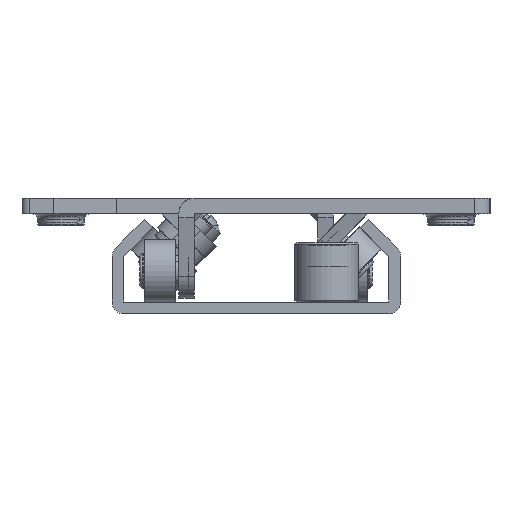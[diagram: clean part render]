
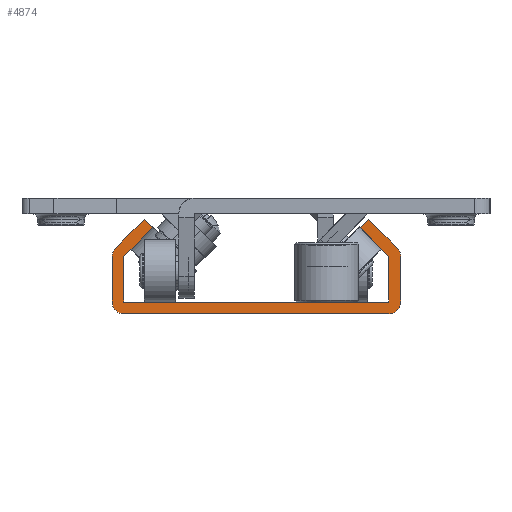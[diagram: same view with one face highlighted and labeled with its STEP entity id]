
A CAD part, left-side view. The second image highlights one B-rep face of the part: STEP entity #4874.
In plain terms, the highlighted planar face has unit normal (-1, 0, 0).
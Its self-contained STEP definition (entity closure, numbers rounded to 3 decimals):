
#4735=CARTESIAN_POINT('',(6.032,-61.972,-18.688));
#4736=VERTEX_POINT('',#4735);
#4737=CARTESIAN_POINT('',(6.032,-60.912,-17.627));
#4738=VERTEX_POINT('',#4737);
#4739=CARTESIAN_POINT('',(6.032,-60.823,-17.539));
#4740=DIRECTION('',(0.,0.707,0.707));
#4741=VECTOR('',#4740,1.);
#4742=LINE('',#4739,#4741);
#4743=EDGE_CURVE('',#4736,#4738,#4742,.T.);
#4744=ORIENTED_EDGE('',*,*,#4743,.T.);
#4745=CARTESIAN_POINT('',(6.032,-57.23,-21.309));
#4746=VERTEX_POINT('',#4745);
#4747=CARTESIAN_POINT('',(6.032,-61.124,-17.415));
#4748=DIRECTION('',(0.,-0.707,0.707));
#4749=VECTOR('',#4748,1.);
#4750=LINE('',#4747,#4749);
#4751=EDGE_CURVE('',#4746,#4738,#4750,.T.);
#4752=ORIENTED_EDGE('',*,*,#4751,.F.);
#4753=CARTESIAN_POINT('',(6.032,-56.79,-22.37));
#4754=VERTEX_POINT('',#4753);
#4755=CARTESIAN_POINT('',(6.032,-58.29,-22.37));
#4756=DIRECTION('',(1.,0.,0.));
#4757=DIRECTION('',(0.,0.,1.));
#4758=AXIS2_PLACEMENT_3D('',#4755,#4756,#4757);
#4759=CIRCLE('',#4758,1.5);
#4760=EDGE_CURVE('',#4754,#4746,#4759,.T.);
#4761=ORIENTED_EDGE('',*,*,#4760,.F.);
#4762=CARTESIAN_POINT('',(6.032,-56.79,-28.214));
#4763=VERTEX_POINT('',#4762);
#4764=CARTESIAN_POINT('',(6.032,-56.79,-28.214));
#4765=DIRECTION('',(0.,0.,1.));
#4766=VECTOR('',#4765,1.);
#4767=LINE('',#4764,#4766);
#4768=EDGE_CURVE('',#4763,#4754,#4767,.T.);
#4769=ORIENTED_EDGE('',*,*,#4768,.F.);
#4770=CARTESIAN_POINT('',(6.032,-58.29,-29.714));
#4771=VERTEX_POINT('',#4770);
#4772=CARTESIAN_POINT('',(6.032,-58.29,-28.214));
#4773=DIRECTION('',(1.,0.,0.));
#4774=DIRECTION('',(0.,1.,0.));
#4775=AXIS2_PLACEMENT_3D('',#4772,#4773,#4774);
#4776=CIRCLE('',#4775,1.5);
#4777=EDGE_CURVE('',#4771,#4763,#4776,.T.);
#4778=ORIENTED_EDGE('',*,*,#4777,.F.);
#4779=CARTESIAN_POINT('',(6.032,-92.29,-29.714));
#4780=VERTEX_POINT('',#4779);
#4781=CARTESIAN_POINT('',(6.032,-92.29,-29.714));
#4782=DIRECTION('',(0.,1.,0.));
#4783=VECTOR('',#4782,1.);
#4784=LINE('',#4781,#4783);
#4785=EDGE_CURVE('',#4780,#4771,#4784,.T.);
#4786=ORIENTED_EDGE('',*,*,#4785,.F.);
#4787=CARTESIAN_POINT('',(6.032,-93.79,-28.214));
#4788=VERTEX_POINT('',#4787);
#4789=CARTESIAN_POINT('',(6.032,-92.29,-28.214));
#4790=DIRECTION('',(1.,0.,0.));
#4791=DIRECTION('',(0.,1.,0.));
#4792=AXIS2_PLACEMENT_3D('',#4789,#4790,#4791);
#4793=CIRCLE('',#4792,1.5);
#4794=EDGE_CURVE('',#4788,#4780,#4793,.T.);
#4795=ORIENTED_EDGE('',*,*,#4794,.F.);
#4796=CARTESIAN_POINT('',(6.032,-93.79,-22.37));
#4797=VERTEX_POINT('',#4796);
#4798=CARTESIAN_POINT('',(6.032,-93.79,-28.214));
#4799=DIRECTION('',(0.,0.,-1.));
#4800=VECTOR('',#4799,1.);
#4801=LINE('',#4798,#4800);
#4802=EDGE_CURVE('',#4797,#4788,#4801,.T.);
#4803=ORIENTED_EDGE('',*,*,#4802,.F.);
#4804=CARTESIAN_POINT('',(6.032,-93.351,-21.309));
#4805=VERTEX_POINT('',#4804);
#4806=CARTESIAN_POINT('',(6.032,-92.29,-22.37));
#4807=DIRECTION('',(1.,0.,0.));
#4808=DIRECTION('',(0.,0.,1.));
#4809=AXIS2_PLACEMENT_3D('',#4806,#4807,#4808);
#4810=CIRCLE('',#4809,1.5);
#4811=EDGE_CURVE('',#4805,#4797,#4810,.T.);
#4812=ORIENTED_EDGE('',*,*,#4811,.F.);
#4813=CARTESIAN_POINT('',(6.032,-89.669,-17.627));
#4814=VERTEX_POINT('',#4813);
#4815=CARTESIAN_POINT('',(6.032,-89.457,-17.415));
#4816=DIRECTION('',(0.,-0.707,-0.707));
#4817=VECTOR('',#4816,1.);
#4818=LINE('',#4815,#4817);
#4819=EDGE_CURVE('',#4814,#4805,#4818,.T.);
#4820=ORIENTED_EDGE('',*,*,#4819,.F.);
#4821=CARTESIAN_POINT('',(6.032,-88.608,-18.688));
#4822=VERTEX_POINT('',#4821);
#4823=CARTESIAN_POINT('',(6.032,-82.939,-24.357));
#4824=DIRECTION('',(0.,0.707,-0.707));
#4825=VECTOR('',#4824,1.);
#4826=LINE('',#4823,#4825);
#4827=EDGE_CURVE('',#4814,#4822,#4826,.T.);
#4828=ORIENTED_EDGE('',*,*,#4827,.T.);
#4829=CARTESIAN_POINT('',(6.032,-92.29,-22.37));
#4830=VERTEX_POINT('',#4829);
#4831=CARTESIAN_POINT('',(6.032,-88.396,-18.475));
#4832=DIRECTION('',(0.,0.707,0.707));
#4833=VECTOR('',#4832,1.);
#4834=LINE('',#4831,#4833);
#4835=EDGE_CURVE('',#4830,#4822,#4834,.T.);
#4836=ORIENTED_EDGE('',*,*,#4835,.F.);
#4837=CARTESIAN_POINT('',(6.032,-92.29,-28.214));
#4838=VERTEX_POINT('',#4837);
#4839=CARTESIAN_POINT('',(6.032,-92.29,-28.214));
#4840=DIRECTION('',(0.,0.,1.));
#4841=VECTOR('',#4840,1.);
#4842=LINE('',#4839,#4841);
#4843=EDGE_CURVE('',#4838,#4830,#4842,.T.);
#4844=ORIENTED_EDGE('',*,*,#4843,.F.);
#4845=CARTESIAN_POINT('',(6.032,-58.29,-28.214));
#4846=VERTEX_POINT('',#4845);
#4847=CARTESIAN_POINT('',(6.032,-92.29,-28.214));
#4848=DIRECTION('',(0.,-1.,0.));
#4849=VECTOR('',#4848,1.);
#4850=LINE('',#4847,#4849);
#4851=EDGE_CURVE('',#4846,#4838,#4850,.T.);
#4852=ORIENTED_EDGE('',*,*,#4851,.F.);
#4853=CARTESIAN_POINT('',(6.032,-58.29,-22.37));
#4854=VERTEX_POINT('',#4853);
#4855=CARTESIAN_POINT('',(6.032,-58.29,-28.214));
#4856=DIRECTION('',(0.,0.,-1.));
#4857=VECTOR('',#4856,1.);
#4858=LINE('',#4855,#4857);
#4859=EDGE_CURVE('',#4854,#4846,#4858,.T.);
#4860=ORIENTED_EDGE('',*,*,#4859,.F.);
#4861=CARTESIAN_POINT('',(6.032,-62.184,-18.475));
#4862=DIRECTION('',(0.,0.707,-0.707));
#4863=VECTOR('',#4862,1.);
#4864=LINE('',#4861,#4863);
#4865=EDGE_CURVE('',#4736,#4854,#4864,.T.);
#4866=ORIENTED_EDGE('',*,*,#4865,.F.);
#4867=EDGE_LOOP('',(#4744,#4752,#4761,#4769,#4778,#4786,#4795,#4803,#4812,#4820,#4828,#4836,#4844,#4852,#4860,#4866));
#4868=FACE_OUTER_BOUND('',#4867,.T.);
#4869=CARTESIAN_POINT('',(6.032,-61.654,-17.945));
#4870=DIRECTION('',(-1.,0.,0.));
#4871=DIRECTION('',(0.,1.,0.));
#4872=AXIS2_PLACEMENT_3D('',#4869,#4870,#4871);
#4873=PLANE('',#4872);
#4874=ADVANCED_FACE('',(#4868),#4873,.T.);
